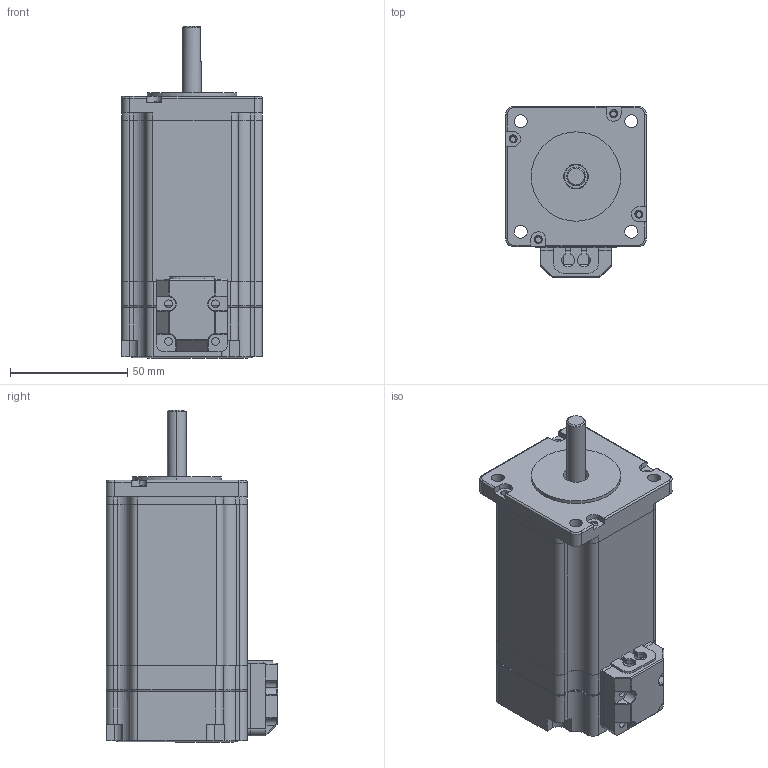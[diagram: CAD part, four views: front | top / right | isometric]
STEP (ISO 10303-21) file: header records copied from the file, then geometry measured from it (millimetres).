
FILE_DESCRIPTION (( 'STEP AP214' ), '1' );
FILE_NAME ('S60-89-30-3M.STEP', '2024-12-13T04:35:37', ( 'Muse' ), ( 'Muse' ), 'SwSTEP 2.0', 'SolidWorks 2020', '' );
FILE_SCHEMA (( 'AUTOMOTIVE_DESIGN' ));
Length unit declared in the file: millimetre
Products named in the file (9): 60隅赽; 6000 粣創; 60綴欶; 60綴裔; 60ヶ裔; 60 57邧謂揤盄輸; S60-89-30-3M; 蛌赽郪璃; 蛌粣
Assembly tree (9 placements, depth 3):
  S60-89-30-3M
    60綴裔
    60隅赽
    60ヶ裔
    蛌赽郪璃
      蛌粣
      6000 粣創
    60 57邧謂揤盄輸
    60綴欶
    6000 粣創
Bounding box: 60 x 73 x 141.5 mm (x, y, z)
Volume: 209021 mm3; surface area: 92138.4 mm2
Topology: 17 solids, 17 shells, 876 faces, 2662 edges, 1671 vertices
Faces by surface type: cylinder 319, plane 278, torus 141, sphere 106, bspline 18, cone 14
Entity records: 26050 total; most frequent: CARTESIAN_POINT 5409, DIRECTION 4180, ORIENTED_EDGE 4178, EDGE_CURVE 2089, AXIS2_PLACEMENT_3D 1613, VERTEX_POINT 1348, VECTOR 954, LINE 954
